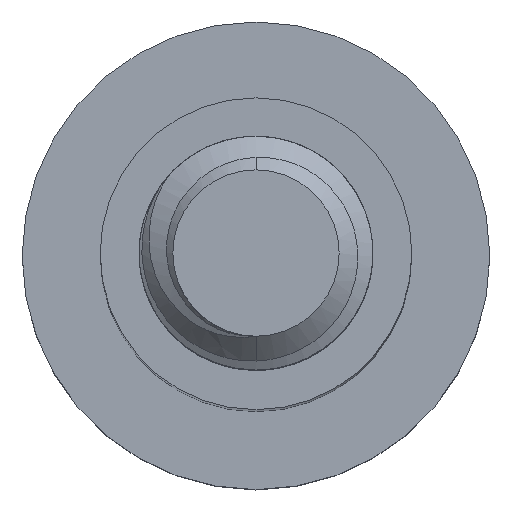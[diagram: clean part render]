
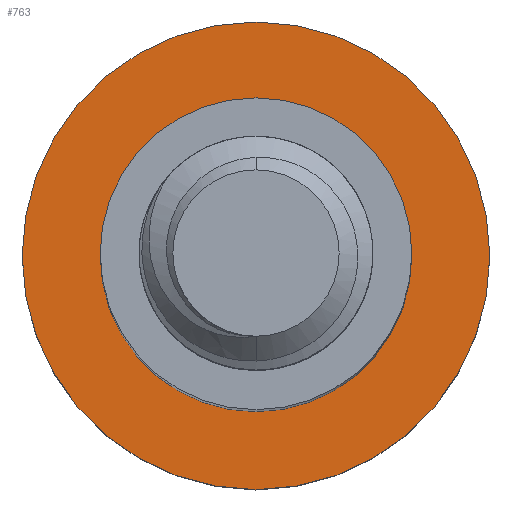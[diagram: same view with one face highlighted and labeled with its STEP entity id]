
A CAD part, top view. The second image highlights one B-rep face of the part: STEP entity #763.
In plain terms, the highlighted planar face has unit normal (0, 0, 1).
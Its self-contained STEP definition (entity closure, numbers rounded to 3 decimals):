
#26 = CARTESIAN_POINT ( 'NONE',  ( -4., 0., -30. ) ) ;
#160 = ORIENTED_EDGE ( 'NONE', *, *, #2548, .T. ) ;
#277 = VERTEX_POINT ( 'NONE', #3777 ) ;
#497 = VERTEX_POINT ( 'NONE', #26 ) ;
#511 = FACE_BOUND ( 'NONE', #3528, .T. ) ;
#538 = FACE_OUTER_BOUND ( 'NONE', #1850, .T. ) ;
#763 = ADVANCED_FACE ( 'NONE', ( #511, #538 ), #3222, .F. ) ;
#844 = CARTESIAN_POINT ( 'NONE',  ( 4., 0., -30. ) ) ;
#874 = VERTEX_POINT ( 'NONE', #844 ) ;
#1050 = EDGE_CURVE ( 'NONE', #3609, #277, #2885, .T. ) ;
#1066 = AXIS2_PLACEMENT_3D ( 'NONE', #4034, #2387, #2739 ) ;
#1268 = DIRECTION ( 'NONE',  ( -1., 0., 0. ) ) ;
#1312 = ORIENTED_EDGE ( 'NONE', *, *, #2743, .F. ) ;
#1336 = CARTESIAN_POINT ( 'NONE',  ( 0., 0., -30. ) ) ;
#1412 = AXIS2_PLACEMENT_3D ( 'NONE', #2924, #4222, #2907 ) ;
#1421 = AXIS2_PLACEMENT_3D ( 'NONE', #2084, #3116, #2107 ) ;
#1745 = DIRECTION ( 'NONE',  ( 0., 0., -1. ) ) ;
#1850 = EDGE_LOOP ( 'NONE', ( #1312, #3787 ) ) ;
#1892 = CARTESIAN_POINT ( 'NONE',  ( 0., 0., -30. ) ) ;
#2084 = CARTESIAN_POINT ( 'NONE',  ( 0., 0., -30. ) ) ;
#2107 = DIRECTION ( 'NONE',  ( -1., 0., 0. ) ) ;
#2219 = DIRECTION ( 'NONE',  ( 0., 0., -1. ) ) ;
#2387 = DIRECTION ( 'NONE',  ( 0., 0., -1. ) ) ;
#2541 = CIRCLE ( 'NONE', #3729, 4. ) ;
#2548 = EDGE_CURVE ( 'NONE', #497, #874, #2541, .T. ) ;
#2739 = DIRECTION ( 'NONE',  ( -1., 0., 0. ) ) ;
#2743 = EDGE_CURVE ( 'NONE', #277, #3609, #4250, .T. ) ;
#2814 = EDGE_CURVE ( 'NONE', #874, #497, #2817, .T. ) ;
#2817 = CIRCLE ( 'NONE', #1421, 4. ) ;
#2885 = CIRCLE ( 'NONE', #1066, 6. ) ;
#2907 = DIRECTION ( 'NONE',  ( -1., 0., 0. ) ) ;
#2924 = CARTESIAN_POINT ( 'NONE',  ( 0., 0., -30. ) ) ;
#3116 = DIRECTION ( 'NONE',  ( 0., 0., -1. ) ) ;
#3222 = PLANE ( 'NONE',  #1412 ) ;
#3441 = AXIS2_PLACEMENT_3D ( 'NONE', #1892, #2219, #1268 ) ;
#3528 = EDGE_LOOP ( 'NONE', ( #160, #3970 ) ) ;
#3609 = VERTEX_POINT ( 'NONE', #3685 ) ;
#3681 = DIRECTION ( 'NONE',  ( -1., 0., 0. ) ) ;
#3685 = CARTESIAN_POINT ( 'NONE',  ( -6., 0., -30. ) ) ;
#3729 = AXIS2_PLACEMENT_3D ( 'NONE', #1336, #1745, #3681 ) ;
#3777 = CARTESIAN_POINT ( 'NONE',  ( 6., 0., -30. ) ) ;
#3787 = ORIENTED_EDGE ( 'NONE', *, *, #1050, .F. ) ;
#3970 = ORIENTED_EDGE ( 'NONE', *, *, #2814, .T. ) ;
#4034 = CARTESIAN_POINT ( 'NONE',  ( 0., 0., -30. ) ) ;
#4222 = DIRECTION ( 'NONE',  ( 0., 0., -1. ) ) ;
#4250 = CIRCLE ( 'NONE', #3441, 6. ) ;
